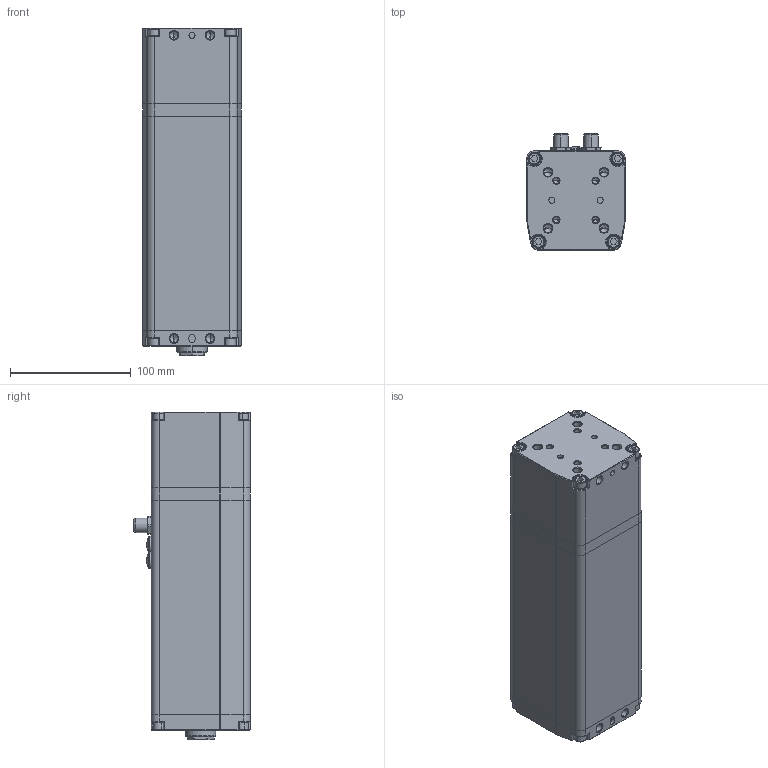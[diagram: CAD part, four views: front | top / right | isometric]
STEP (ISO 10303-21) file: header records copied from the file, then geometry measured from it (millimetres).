
FILE_DESCRIPTION (( 'STEP AP203' ), '1' );
FILE_NAME ('CTC-080-K__-____-_.step', '2023-09-29T09:49:52', ( '' ), ( '' ), 'SwSTEP 2.0', 'SolidWorks 2020', '' );
FILE_SCHEMA (( 'CONFIG_CONTROL_DESIGN' ));
Length unit declared in the file: millimetre
Products named in the file (4): CTC-080_housing_Hub_0100; CTC-080_Aufsatz-I_M10; CTC-080-K__-____-_; CTC-080_Schubrohr_Hub 0100
Assembly tree (3 placements, depth 2):
  CTC-080-K__-____-_
    CTC-080_housing_Hub_0100
    CTC-080_Schubrohr_Hub 0100
    CTC-080_Aufsatz-I_M10
Bounding box: 82 x 96.3 x 272 mm (x, y, z)
Volume: 1639166.8 mm3; surface area: 215482 mm2
Topology: 30 solids, 30 shells, 794 faces, 1773 edges, 1092 vertices
Faces by surface type: cylinder 305, plane 297, cone 116, torus 68, sphere 8
Entity records: 22301 total; most frequent: DIRECTION 4133, CARTESIAN_POINT 3791, ORIENTED_EDGE 3478, EDGE_CURVE 1739, AXIS2_PLACEMENT_3D 1630, VERTEX_POINT 1092, EDGE_LOOP 889, LINE 873
